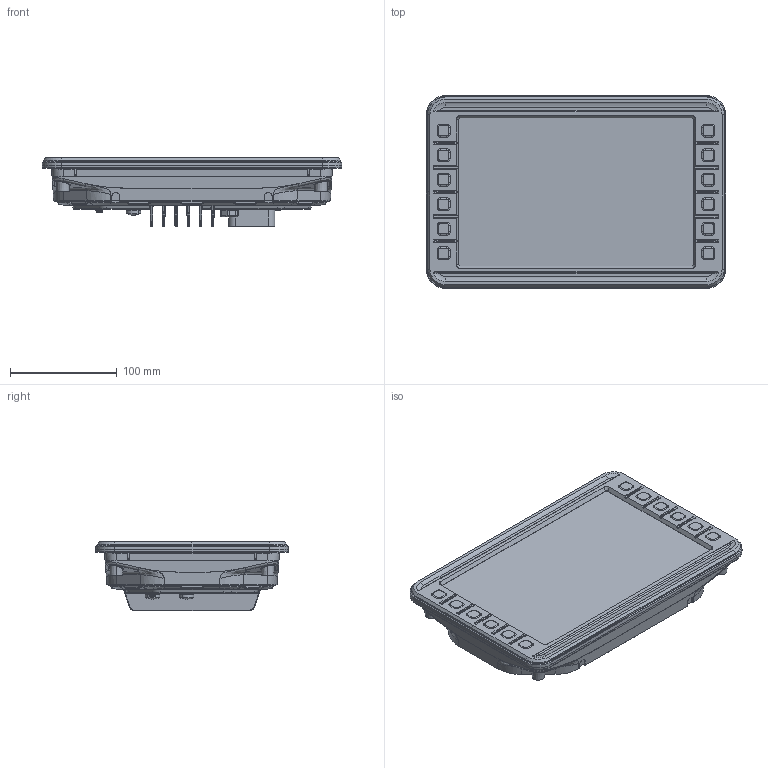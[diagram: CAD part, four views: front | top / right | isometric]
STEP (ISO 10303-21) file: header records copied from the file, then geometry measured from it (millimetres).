
FILE_DESCRIPTION (( 'STEP AP214' ), '1' );
FILE_NAME ('M810-01 Keyed.STEP', '2023-10-11T10:24:52', ( '' ), ( '' ), 'SwSTEP 2.0', 'SolidWorks 2022', '' );
FILE_SCHEMA (( 'AUTOMOTIVE_DESIGN' ));
Length unit declared in the file: millimetre
Products named in the file (1): M810-01 Keyed
Bounding box: 280.89 x 180.89 x 65.51 mm (x, y, z)
Volume: 1852566 mm3; surface area: 179972 mm2
Topology: 7 solids, 19 shells, 2883 faces, 7455 edges, 4711 vertices
Faces by surface type: plane 1179, cylinder 910, bspline 547, cone 127, torus 116, sphere 4
Entity records: 168755 total; most frequent: CARTESIAN_POINT 103268, ORIENTED_EDGE 14894, DIRECTION 12079, EDGE_CURVE 7447, VERTEX_POINT 4711, AXIS2_PLACEMENT_3D 4086, LINE 3907, VECTOR 3907
